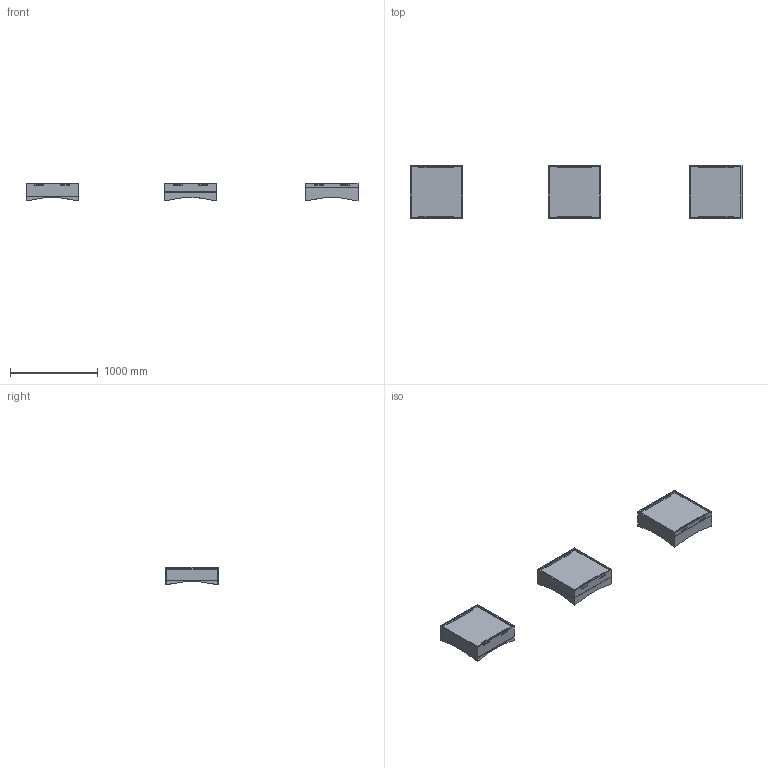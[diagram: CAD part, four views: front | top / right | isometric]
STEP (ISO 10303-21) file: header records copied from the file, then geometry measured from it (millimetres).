
FILE_DESCRIPTION(/* description */ (''),/* implementation_level */ '2;1');
FILE_NAME(/* name */ 'Coffa_Profile_4',/* time_stamp */ '2026-07-17T11:33:19-05:00',/* author */ (''),/* organization */ (''),/* preprocessor_version */ 'ST-DEVELOPER v19.2',/* originating_system */ 'Rhino 8.32',/* authorisation */ '');
FILE_SCHEMA (('CONFIG_CONTROL_DESIGN'));
Length unit declared in the file: inch
Products named in the file (1): Document
Bounding box: 3786.87 x 596.9 x 203.2 mm (x, y, z)
Volume: 27255791.4 mm3; surface area: 5038245.4 mm2
Topology: 21 solids, 21 shells, 282 faces, 732 edges, 492 vertices
Faces by surface type: plane 270, cylinder 12
Entity records: 8117 total; most frequent: CARTESIAN_POINT 2769, ORIENTED_EDGE 1440, EDGE_CURVE 720, B_SPLINE_CURVE_WITH_KNOTS 708, VERTEX_POINT 480, DIRECTION 336, AXIS2_PLACEMENT_3D 309, EDGE_LOOP 306
